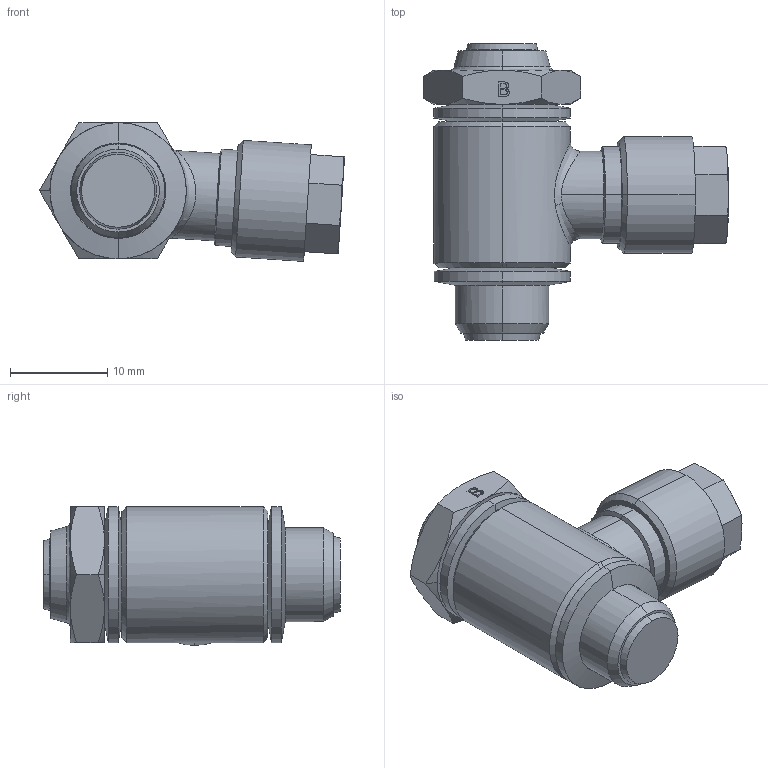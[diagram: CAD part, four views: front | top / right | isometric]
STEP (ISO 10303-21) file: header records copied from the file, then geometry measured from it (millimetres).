
FILE_DESCRIPTION (( 'STEP AP203' ), '1' );
FILE_NAME ('249873.STEP', '2016-08-10T08:38:21', ( '' ), ( '' ), 'SwSTEP 2.0', 'SolidWorks 2016', '' );
FILE_SCHEMA (( 'CONFIG_CONTROL_DESIGN' ));
Length unit declared in the file: millimetre
Products named in the file (1): 249873
Bounding box: 31.45 x 30.59 x 14.31 mm (x, y, z)
Volume: 5453 mm3; surface area: 2730.8 mm2
Topology: 1 solids, 1 shells, 158 faces, 390 edges, 245 vertices
Faces by surface type: plane 56, cone 50, cylinder 32, bspline 20
Entity records: 6456 total; most frequent: CARTESIAN_POINT 2696, ORIENTED_EDGE 780, DIRECTION 757, EDGE_CURVE 390, AXIS2_PLACEMENT_3D 306, VERTEX_POINT 245, EDGE_LOOP 181, CIRCLE 167
